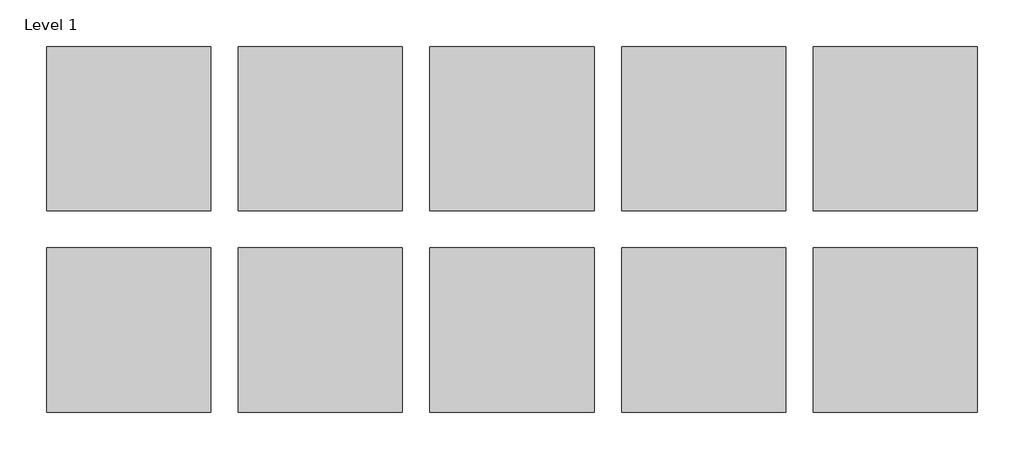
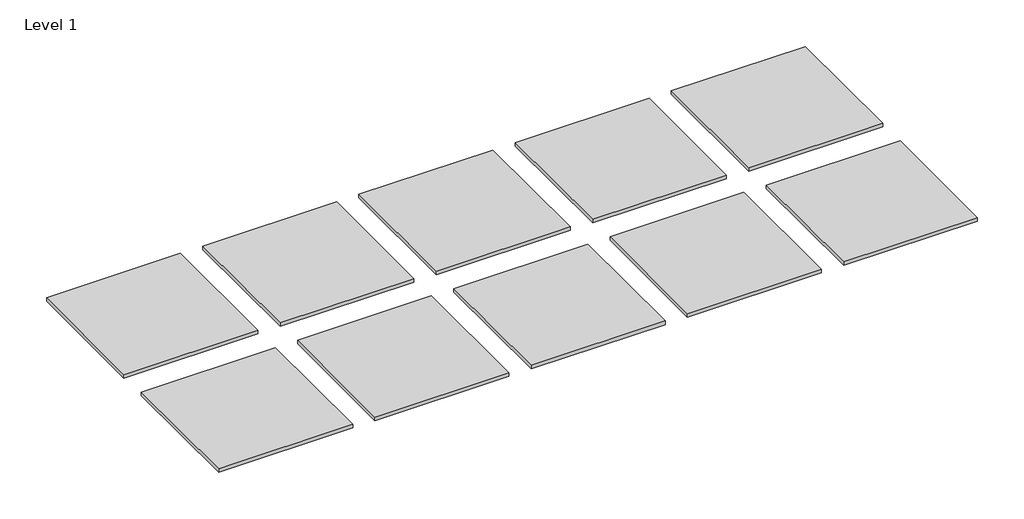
# One storey: 10 proxies.
"""IFC4 building model written with IfcOpenShell, lengths in millimetres."""

from ifc_helpers import new_model, si_unit, origin, place, context, project, spatial, transform, mapped, element, save
from components import materialsample_type_1_19775645

model = new_model("IFC4")

# Units and contexts
model_context = context("Model", 3, world=origin())
ifc_project = project(units=[si_unit("LENGTHUNIT", "METRE", prefix="MILLI")], contexts=[model_context])

# Site, building, storey
site = spatial("IfcSite", under=ifc_project)
building = spatial("IfcBuilding", under=site)
storey = spatial("IfcBuildingStorey", under=building, Name="Level 1", Elevation=0.0)

# Proxies
placement = place(None, origin())
materialsample_type_1_shape = materialsample_type_1_19775645(model_context)
element("IfcBuildingElementProxy", 1, Name="MaterialSample : Type 1", ObjectType="MaterialSample : Type 1", at=placement, inside=storey, context=model_context, shape_type="MappedRepresentation", body=[
    mapped(materialsample_type_1_shape, transform((25603.2, 0.0, 0.0), x_axis=(1.0, 0.0, 0.0), y_axis=(0.0, 1.0, 0.0), z_axis=(0.0, 0.0, 1.0))),
])
element("IfcBuildingElementProxy", 2, Name="MaterialSample : Type 1", ObjectType="MaterialSample : Type 1", at=placement, inside=storey, context=model_context, shape_type="MappedRepresentation", body=[
    mapped(materialsample_type_1_shape, transform((26670.0, 0.0, 0.0), x_axis=(1.0, 0.0, 0.0), y_axis=(0.0, 1.0, 0.0), z_axis=(0.0, 0.0, 1.0))),
])
element("IfcBuildingElementProxy", 3, Name="MaterialSample : Type 1", ObjectType="MaterialSample : Type 1", at=placement, inside=storey, context=model_context, shape_type="MappedRepresentation", body=[
    mapped(materialsample_type_1_shape, transform((27736.8, 0.0, 0.0), x_axis=(1.0, 0.0, 0.0), y_axis=(0.0, 1.0, 0.0), z_axis=(0.0, 0.0, 1.0))),
])
element("IfcBuildingElementProxy", 4, Name="MaterialSample : Type 1", ObjectType="MaterialSample : Type 1", at=placement, inside=storey, context=model_context, shape_type="MappedRepresentation", body=[
    mapped(materialsample_type_1_shape, transform((28803.6, 0.0, 0.0), x_axis=(1.0, 0.0, 0.0), y_axis=(0.0, 1.0, 0.0), z_axis=(0.0, 0.0, 1.0))),
])
element("IfcBuildingElementProxy", 5, Name="MaterialSample : Type 1", ObjectType="MaterialSample : Type 1", at=placement, inside=storey, context=model_context, shape_type="MappedRepresentation", body=[
    mapped(materialsample_type_1_shape, transform((29870.4, 0.0, 0.0), x_axis=(1.0, 0.0, 0.0), y_axis=(0.0, 1.0, 0.0), z_axis=(0.0, 0.0, 1.0))),
])
element("IfcBuildingElementProxy", 6, Name="MaterialSample : Type 1", ObjectType="MaterialSample : Type 1", at=placement, inside=storey, context=model_context, shape_type="MappedRepresentation", body=[
    mapped(materialsample_type_1_shape, transform((25603.2, -1121.1829153, 0.0), x_axis=(1.0, 0.0, 0.0), y_axis=(0.0, 1.0, 0.0), z_axis=(0.0, 0.0, 1.0))),
])
element("IfcBuildingElementProxy", 7, Name="MaterialSample : Type 1", ObjectType="MaterialSample : Type 1", at=placement, inside=storey, context=model_context, shape_type="MappedRepresentation", body=[
    mapped(materialsample_type_1_shape, transform((26670.0, -1121.1829153, 0.0), x_axis=(1.0, 0.0, 0.0), y_axis=(0.0, 1.0, 0.0), z_axis=(0.0, 0.0, 1.0))),
])
element("IfcBuildingElementProxy", 8, Name="MaterialSample : Type 1", ObjectType="MaterialSample : Type 1", at=placement, inside=storey, context=model_context, shape_type="MappedRepresentation", body=[
    mapped(materialsample_type_1_shape, transform((27736.8, -1121.1829153, 0.0), x_axis=(1.0, 0.0, 0.0), y_axis=(0.0, 1.0, 0.0), z_axis=(0.0, 0.0, 1.0))),
])
element("IfcBuildingElementProxy", 9, Name="MaterialSample : Type 1", ObjectType="MaterialSample : Type 1", at=placement, inside=storey, context=model_context, shape_type="MappedRepresentation", body=[
    mapped(materialsample_type_1_shape, transform((28803.6, -1121.1829153, 0.0), x_axis=(1.0, 0.0, 0.0), y_axis=(0.0, 1.0, 0.0), z_axis=(0.0, 0.0, 1.0))),
])
element("IfcBuildingElementProxy", 10, Name="MaterialSample : Type 1", ObjectType="MaterialSample : Type 1", at=placement, inside=storey, context=model_context, shape_type="MappedRepresentation", body=[
    mapped(materialsample_type_1_shape, transform((29870.4, -1121.1829153, 0.0), x_axis=(1.0, 0.0, 0.0), y_axis=(0.0, 1.0, 0.0), z_axis=(0.0, 0.0, 1.0))),
])

save(model, "model.ifc")
